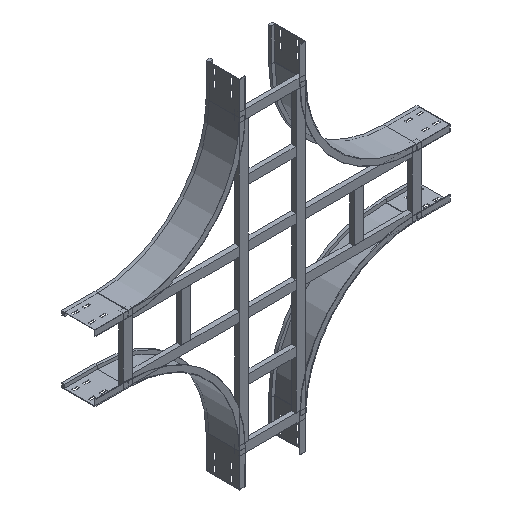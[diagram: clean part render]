
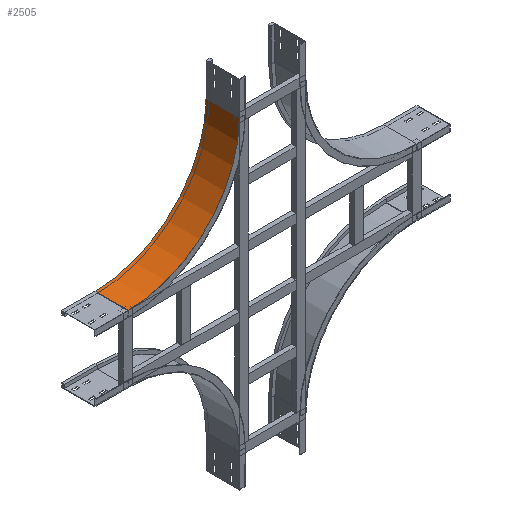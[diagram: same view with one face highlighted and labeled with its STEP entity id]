
A CAD part, isometric view. The second image highlights one B-rep face of the part: STEP entity #2505.
In plain terms, the highlighted cylindrical face has radius 500 mm (diameter 1000 mm), a partial arc.
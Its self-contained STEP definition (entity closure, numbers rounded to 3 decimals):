
#86 = LINE ( 'NONE', #486, #1225 ) ;
#112 = LINE ( 'NONE', #1928, #2490 ) ;
#178 = CARTESIAN_POINT ( 'NONE',  ( 500., 150., -150. ) ) ;
#187 = DIRECTION ( 'NONE',  ( -1., 0., 0. ) ) ;
#248 = EDGE_CURVE ( 'NONE', #2860, #1366, #984, .T. ) ;
#358 = CARTESIAN_POINT ( 'NONE',  ( 500., 150., -650. ) ) ;
#364 = ORIENTED_EDGE ( 'NONE', *, *, #1193, .F. ) ;
#373 = DIRECTION ( 'NONE',  ( -1., 0., 0. ) ) ;
#395 = EDGE_LOOP ( 'NONE', ( #640, #364, #2819, #2562 ) ) ;
#416 = CIRCLE ( 'NONE', #2449, 500. ) ;
#486 = CARTESIAN_POINT ( 'NONE',  ( 0., 0., -150. ) ) ;
#512 = VERTEX_POINT ( 'NONE', #918 ) ;
#519 = AXIS2_PLACEMENT_3D ( 'NONE', #2799, #1475, #1490 ) ;
#640 = ORIENTED_EDGE ( 'NONE', *, *, #248, .F. ) ;
#918 = CARTESIAN_POINT ( 'NONE',  ( 0., 0., -150. ) ) ;
#984 = CIRCLE ( 'NONE', #2056, 500. ) ;
#1021 = CYLINDRICAL_SURFACE ( 'NONE', #519, 500. ) ;
#1063 = FACE_OUTER_BOUND ( 'NONE', #395, .T. ) ;
#1193 = EDGE_CURVE ( 'NONE', #512, #2860, #86, .T. ) ;
#1225 = VECTOR ( 'NONE', #2556, 1000. ) ;
#1341 = EDGE_CURVE ( 'NONE', #2310, #1366, #112, .T. ) ;
#1366 = VERTEX_POINT ( 'NONE', #358 ) ;
#1431 = CARTESIAN_POINT ( 'NONE',  ( 0., 150., -150. ) ) ;
#1475 = DIRECTION ( 'NONE',  ( 0., -1., 0. ) ) ;
#1490 = DIRECTION ( 'NONE',  ( 0., 0., -1. ) ) ;
#1928 = CARTESIAN_POINT ( 'NONE',  ( 500., 0., -650. ) ) ;
#1993 = DIRECTION ( 'NONE',  ( 0., -1., 0. ) ) ;
#2056 = AXIS2_PLACEMENT_3D ( 'NONE', #178, #1993, #373 ) ;
#2301 = EDGE_CURVE ( 'NONE', #512, #2310, #416, .T. ) ;
#2310 = VERTEX_POINT ( 'NONE', #2818 ) ;
#2364 = DIRECTION ( 'NONE',  ( 0., 1., 0. ) ) ;
#2449 = AXIS2_PLACEMENT_3D ( 'NONE', #2616, #2636, #187 ) ;
#2490 = VECTOR ( 'NONE', #2364, 1000. ) ;
#2505 = ADVANCED_FACE ( 'NONE', ( #1063 ), #1021, .F. ) ;
#2556 = DIRECTION ( 'NONE',  ( 0., 1., 0. ) ) ;
#2562 = ORIENTED_EDGE ( 'NONE', *, *, #1341, .T. ) ;
#2616 = CARTESIAN_POINT ( 'NONE',  ( 500., 0., -150. ) ) ;
#2636 = DIRECTION ( 'NONE',  ( 0., -1., 0. ) ) ;
#2799 = CARTESIAN_POINT ( 'NONE',  ( 500., 0., -150. ) ) ;
#2818 = CARTESIAN_POINT ( 'NONE',  ( 500., 0., -650. ) ) ;
#2819 = ORIENTED_EDGE ( 'NONE', *, *, #2301, .T. ) ;
#2860 = VERTEX_POINT ( 'NONE', #1431 ) ;
